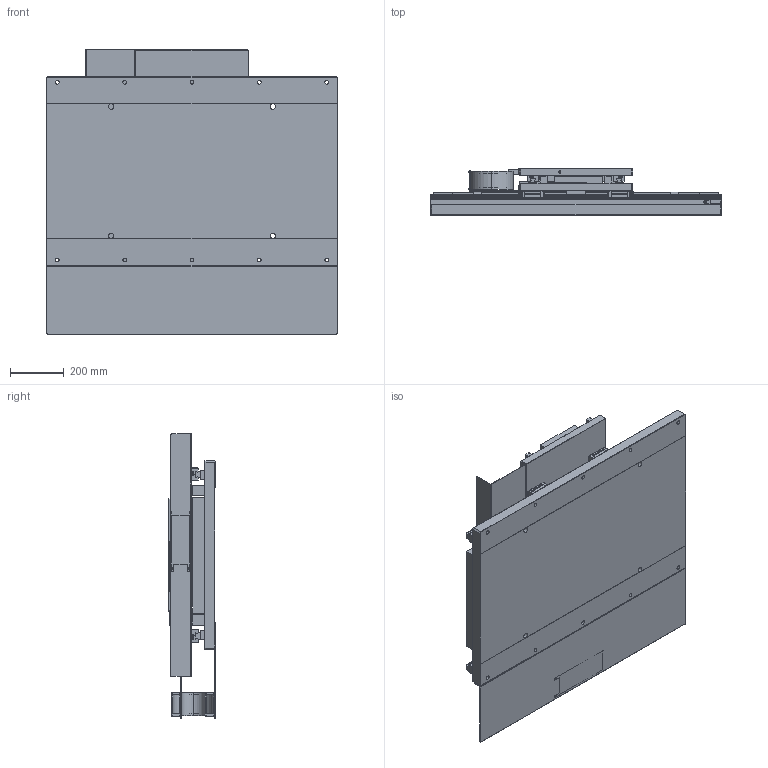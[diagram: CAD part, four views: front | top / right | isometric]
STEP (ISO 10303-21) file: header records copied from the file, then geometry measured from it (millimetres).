
FILE_DESCRIPTION (( 'STEP AP214' ), '1' );
FILE_NAME ('NST-D60B545A5BPNC_#2.00_0.STEP', '2021-04-15T06:47:01', ( '' ), ( '' ), 'SwSTEP 2.0', 'SolidWorks 2018', '' );
FILE_SCHEMA (( 'AUTOMOTIVE_DESIGN' ));
Length unit declared in the file: millimetre
Products named in the file (6): AUA02650; AUA02520; 17YK0600_ORG; NST-D60B545A5BPNC_#2.00_0; AUA01510; 17YK1090_Org
Assembly tree (5 placements, depth 2):
  NST-D60B545A5BPNC_#2.00_0
    AUA01510
    AUA02650
    AUA02520
    17YK1090_Org
    17YK0600_ORG
Bounding box: 1080 x 172 x 1055 mm (x, y, z)
Volume: 75260851.9 mm3; surface area: 5742257.1 mm2
Topology: 52 solids, 54 shells, 2070 faces, 5396 edges, 3427 vertices
Faces by surface type: plane 1340, cylinder 488, cone 146, torus 48, sphere 48
Entity records: 85095 total; most frequent: CARTESIAN_POINT 12347, ORIENTED_EDGE 10644, DIRECTION 10590, EDGE_CURVE 5322, VECTOR 3634, LINE 3634, AXIS2_PLACEMENT_3D 3478, VERTEX_POINT 3411
